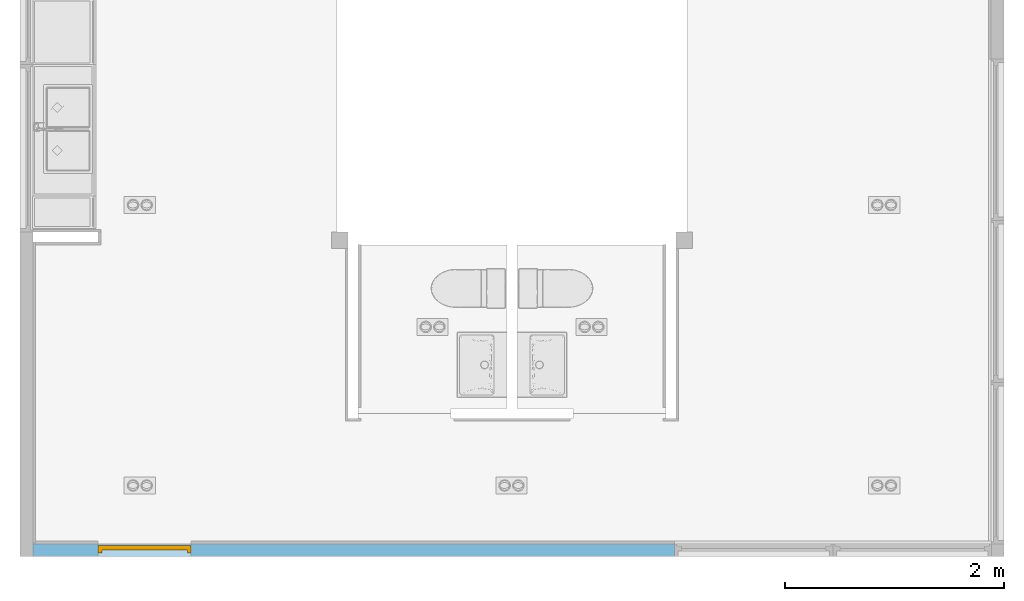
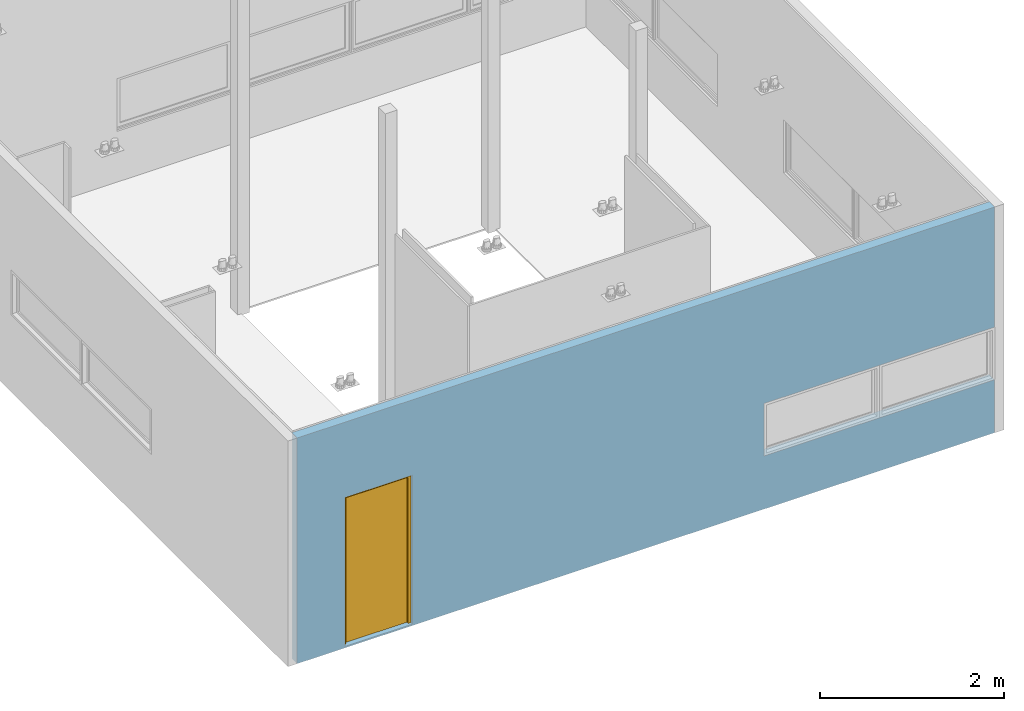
# One storey, part 4 of 5: 1 door, 3 openings, plus 1 element that does not belong to this part.
"""IFC2X3 building model written with IfcOpenShell, lengths in centimetres."""

from ifc_helpers import new_model, entity, si_unit, converted_unit, derived_unit, direction, frame, frame_2d, origin, place, context, subcontext, project, spatial, rectangle, extrude, faceted_brep, source, transform, mapped, material, layer, layer_set, layer_usage, type_object, type_shapes, element, fill, save


model = new_model("IFC2X3")

# Units and contexts
model_context = context("Model", 3, precision=0.001, world=origin(), true_north=direction((6.123233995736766e-17, 1.0)))
body_context = subcontext(model_context, "Body", "Model", "MODEL_VIEW")
ifc_project = project(units=[si_unit("LENGTHUNIT", "METRE", prefix="CENTI"), si_unit("AREAUNIT", "SQUARE_METRE"), si_unit("VOLUMEUNIT", "CUBIC_METRE"), converted_unit("PLANEANGLEUNIT", "DEGREE", entity("IfcPlaneAngleMeasure", 0.017453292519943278), si_unit("PLANEANGLEUNIT", "RADIAN"), dimensions=[0, 0, 0, 0, 0, 0, 0]), si_unit("POWERUNIT", "WATT"), derived_unit("USERDEFINED", [(si_unit("MASSUNIT", "GRAM", prefix="KILO"), 1), (si_unit("TIMEUNIT", "SECOND"), -3)]), si_unit("FORCEUNIT", "NEWTON", prefix="KILO"), derived_unit("THERMALTRANSMITTANCEUNIT", [(si_unit("MASSUNIT", "GRAM", prefix="KILO"), 1), (si_unit("TIMEUNIT", "SECOND"), -3), (si_unit("THERMODYNAMICTEMPERATUREUNIT", "KELVIN"), -1)]), derived_unit("USERDEFINED", [(si_unit("MASSUNIT", "GRAM", prefix="KILO"), 1), (si_unit("THERMODYNAMICTEMPERATUREUNIT", "KELVIN"), -1), (si_unit("TIMEUNIT", "SECOND"), -2)]), derived_unit("THERMALRESISTANCEUNIT", [(si_unit("MASSUNIT", "GRAM", prefix="KILO"), -1), (si_unit("TIMEUNIT", "SECOND"), 3), (si_unit("THERMODYNAMICTEMPERATUREUNIT", "KELVIN"), 1)]), derived_unit("USERDEFINED", [(si_unit("MASSUNIT", "GRAM", prefix="KILO"), -1), (si_unit("TIMEUNIT", "SECOND"), 3), (si_unit("LENGTHUNIT", "METRE"), -2), (si_unit("LUMINOUSFLUXUNIT", "LUMEN"), 1)]), si_unit("LUMINOUSFLUXUNIT", "LUMEN")], contexts=[model_context])

# Site, building, storey
site_placement = place(None, origin())
site = spatial("IfcSite", under=ifc_project, at=site_placement, Name="Default", CompositionType="ELEMENT")
building_placement = place(site_placement, origin())
building = spatial("IfcBuilding", under=site, at=building_placement, Name="Workshop Hbaitáculo - Refugio Tierra del Fuego", CompositionType="ELEMENT")
storey_placement = place(building_placement, frame((0.0, 0.0, 123.0)))
storey = spatial("IfcBuildingStorey", under=building, at=storey_placement, Name="NPT", CompositionType="ELEMENT", Elevation=123.0)

# Wall, openings, door
ifc_material_1 = material(Name="SIP OSB")
ifc_layer_1 = layer(ifc_material_1, 1.1)
ifc_material_2 = material(Name="SIP Aislamiento - Poliestireno expandido")
ifc_layer_2 = layer(ifc_material_2, 9.5)
ifc_layer_3 = layer(ifc_material_1, 1.1)
ifc_layer_set = layer_set([ifc_layer_1, ifc_layer_2, ifc_layer_3], Name="Muro básico:Panel SiP perimetral 117mm")
ifc_layer_usage = layer_usage(ifc_layer_set, "AXIS2", "POSITIVE", -5.849999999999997)
wall_type = type_object("IfcWallType", Name="Muro básico:Panel SiP perimetral 117mm", PredefinedType="STANDARD", material=ifc_layer_set)
wall_placement = place(storey_placement, frame((11.549999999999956, -585.300000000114, -2.0)))
wall = element("IfcWallStandardCase", 1, at=wall_placement, inside=storey, type_object=wall_type, material=ifc_layer_usage, Name="Muro básico:Panel SiP perimetral 117mm", ObjectType="Muro básico:Panel SiP perimetral 117mm", context=body_context, shape_type="SweptSolid", body=[
    extrude(rectangle(XDim=876.9000000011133, YDim=11.700000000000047, at=frame_2d((438.4500000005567, -4.574118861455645e-14), x_axis=(-1.0, 0.0))), origin(), (0.0, 0.0, 1.0), 299.99999999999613),
])
opening_1_placement = place(wall_placement, frame((732.0500000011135, -5.8500000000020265, 70.50000000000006)))
element("IfcOpeningElement", 2, at=opening_1_placement, cuts=wall, Name="M_Fixed1:145*70:1", ObjectType="Opening", context=body_context, shape_type="SweptSolid", body=[
    extrude(rectangle(XDim=69.99999999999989, YDim=144.9999999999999, at=frame_2d((34.99999999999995, 72.5), x_axis=(1.0, 0.0))), frame((0.0, 0.0, 0.0), z_axis=(0.0, 1.0, 0.0), x_axis=(0.0, 0.0, 1.0)), (0.0, 0.0, 1.0), 11.699999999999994),
])
opening_2_placement = place(wall_placement, frame((587.0500000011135, -5.850000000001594, 70.50000000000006)))
element("IfcOpeningElement", 3, at=opening_2_placement, cuts=wall, Name="M_Fixed1:145*70:1", ObjectType="Opening", context=body_context, shape_type="SweptSolid", body=[
    extrude(rectangle(XDim=69.99999999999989, YDim=144.9999999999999, at=frame_2d((34.99999999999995, 72.5), x_axis=(1.0, 0.0))), frame((0.0, 0.0, 0.0), z_axis=(0.0, 1.0, 0.0), x_axis=(0.0, 0.0, 1.0)), (0.0, 0.0, 1.0), 11.699999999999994),
])
opening_3_placement = place(wall_placement, frame((59.84999999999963, -5.8500000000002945, 2.0)))
opening_3 = element("IfcOpeningElement", 4, at=opening_3_placement, cuts=wall, Name="TBC-P-PuertaSimpleMadera:TBC_ARQ_PuertaSimple_P85:1", ObjectType="Opening", context=body_context, shape_type="SweptSolid", body=[
    extrude(rectangle(XDim=197.9999999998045, YDim=84.99999999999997, at=frame_2d((98.99999999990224, 42.499999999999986), x_axis=(1.0, 0.0))), frame((0.0, 0.0, 0.0), z_axis=(0.0, 1.0, 0.0), x_axis=(0.0, 0.0, 1.0)), (0.0, 0.0, 1.0), 11.699999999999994),
])
ifc_material_3 = material(Name="TBC_PuertaMetalicaPintada")
door_style = type_object("IfcDoorStyle", Name="TBC-P-PuertaSimpleMadera:TBC_ARQ_PuertaSimple_P85", ConstructionType="NOTDEFINED", OperationType="NOTDEFINED", ParameterTakesPrecedence=False, Sizeable=False, material=ifc_material_3)
shared_shape = source(origin(), body_context, "Body", "Brep", [
    faceted_brep([(82.5, 6.0, 195.5000000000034), (2.500000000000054, 6.0, 195.5000000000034), (2.500000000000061, 6.0, 0.0), (82.5, 6.0, 0.0), (82.5, 10.199999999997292, 195.50000000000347), (82.5, 10.199999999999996, 0.0), (2.500000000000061, 10.199999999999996, 0.0), (2.500000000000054, 10.199999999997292, 195.50000000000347)], [[[0, 1, 2, 3]], [[4, 5, 6, 7]], [[1, 0, 4, 7]], [[2, 1, 7, 6]], [[3, 2, 6, 5]], [[0, 3, 5, 4]]]),
    faceted_brep([(0.0, 10.200000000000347, 0.0), (2.5000000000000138, 10.200000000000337, 0.0), (2.5, 6.0, 0.0), (3.5000000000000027, 6.0, 0.0), (3.499999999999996, 3.200000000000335, 0.0), (0.0, 3.200000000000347, 0.0), (0.0, 10.200000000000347, 198.0), (85.0, 10.20000000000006, 198.0), (85.0, 10.20000000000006, 0.0), (82.49999999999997, 10.200000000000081, 0.0), (82.49999999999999, 10.200000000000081, 195.4999999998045), (2.500000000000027, 10.200000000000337, 195.49999999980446), (2.5000000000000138, 6.0, 195.49999999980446), (82.49999999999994, 6.0, 195.49999999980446), (82.49999999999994, 6.0, 0.0), (81.49999999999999, 6.0, 0.0), (81.49999999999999, 6.0, 194.49999999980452), (3.5000000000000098, 6.0, 194.4999999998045), (3.5000000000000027, 3.200000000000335, 194.4999999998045), (81.49999999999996, 3.2000000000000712, 194.49999999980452), (81.49999999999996, 3.2000000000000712, 0.0), (85.0, 3.200000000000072, 0.0), (85.0, 3.200000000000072, 198.0), (0.0, 3.200000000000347, 198.0)], [[[0, 1, 2, 3, 4, 5]], [[1, 0, 6, 7, 8, 9, 10, 11]], [[2, 1, 11, 12]], [[3, 2, 12, 13, 14, 15, 16, 17]], [[4, 3, 17, 18]], [[5, 4, 18, 19, 20, 21, 22, 23]], [[0, 5, 23, 6]], [[7, 22, 21, 8]], [[8, 21, 20, 15, 14, 9]], [[13, 10, 9, 14]], [[19, 16, 15, 20]], [[12, 11, 10, 13]], [[18, 17, 16, 19]], [[6, 23, 22, 7]]]),
])
type_shapes(door_style, [shared_shape])
door_placement = place(opening_3_placement, origin())
door = element("IfcDoor", 5, at=door_placement, inside=storey, type_object=door_style, material=ifc_material_3, Name="TBC-P-PuertaSimpleMadera:TBC_ARQ_PuertaSimple_P85", ObjectType="TBC-P-PuertaSimpleMadera:TBC_ARQ_PuertaSimple_P85", OverallHeight=197.9999999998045, OverallWidth=84.99999999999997, context=body_context, shape_type="MappedRepresentation", body=[
    mapped(shared_shape, transform((0.0, 0.0, 0.0), scale=1.0)),
])
fill(opening_3, door)

save(model, "model.ifc")
